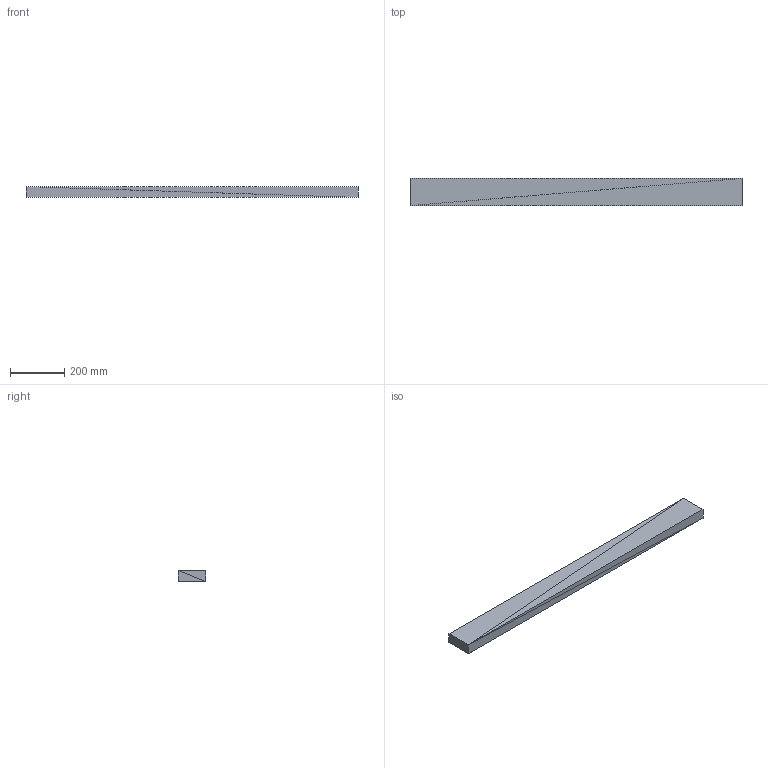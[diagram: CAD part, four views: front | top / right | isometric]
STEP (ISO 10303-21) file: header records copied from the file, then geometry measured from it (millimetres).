
FILE_DESCRIPTION(('ISINAC STEP AP214'),'2;1');
FILE_NAME('ISINAC_R.1220.100_40mm_ADHESIVO','2026-05-03T10:49:19',('ISINAC'),('www.isinac.com'),'ISINAC BIM Generator 1.0','','');
FILE_SCHEMA(('AUTOMOTIVE_DESIGN'));
Length unit declared in the file: millimetre
Products named in the file (1): ISINAC_R.1220.100_40mm_ADHESIVO
Bounding box: 1220 x 100 x 40 mm (x, y, z)
Surface area: 349600 mm2 (no closed solid volume)
Topology: 0 solids, 12 shells, 12 faces, 36 edges, 36 vertices
Faces by surface type: plane 12
Entity records: 145 total; most frequent: CARTESIAN_POINT 48, DIRECTION 24, POLY_LOOP 12, FACE_OUTER_BOUND 12, AXIS2_PLACEMENT_3D 12, PLANE 12, FACE_SURFACE 12, CLOSED_SHELL 1
